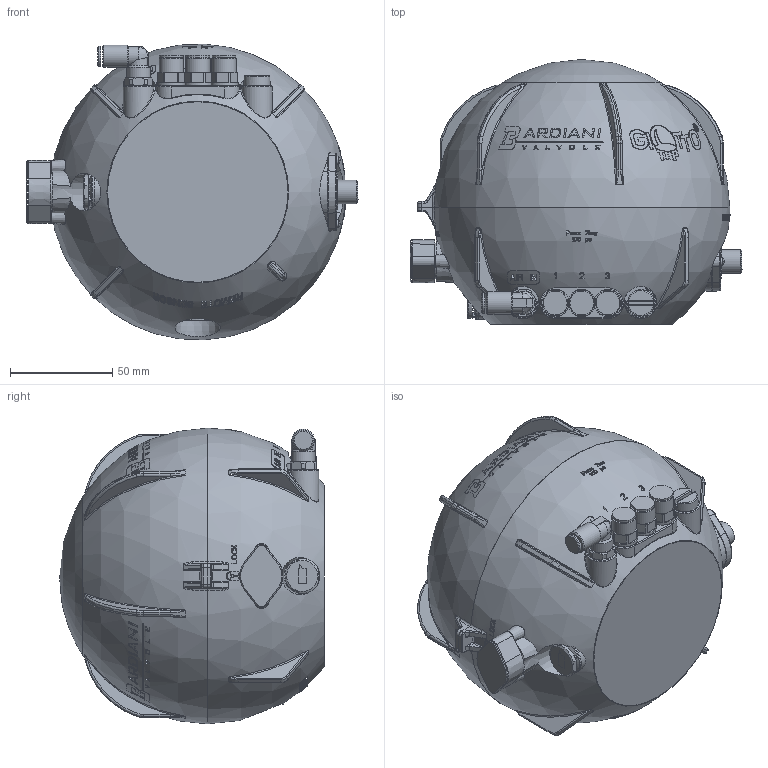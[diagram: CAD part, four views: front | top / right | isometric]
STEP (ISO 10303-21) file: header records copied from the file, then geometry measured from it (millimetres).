
FILE_DESCRIPTION(/* description */ (''),/* implementation_level */ '2;1');
FILE_NAME(/* name */ 'Z:\DOCUMENT\invigore\CATALOGO\Roll UP Giotto & JGiotto top 0115\3D Roll up fiera 2015\Giotto-Top-18_09_2014-Vuota.stp',/* time_stamp */ '2017-03-30T10:18:41+02:00',/* author */ ('marz-m'),/* organization */ (''),/* preprocessor_version */ 'ST-DEVELOPER v16.5',/* originating_system */ 'Autodesk Inventor 2017',/* authorisation */ '');
FILE_SCHEMA (('AUTOMOTIVE_DESIGN { 1 0 10303 214 3 1 1 }'));
Products named in the file (2): Giotto-Top-18_09_2014-Vuota; Giotto-Top-18_09_2014-Vuota_Substitute_1
Assembly tree (1 placements, depth 2):
  Giotto-Top-18_09_2014-Vuota
    Giotto-Top-18_09_2014-Vuota_Substitute_1
Bounding box: 162.66 x 129.8 x 144.85 mm (x, y, z)
Surface area: 113978 mm2 (no closed solid volume)
Topology: 0 solids, 97 shells, 565 faces, 4870 edges, 4359 vertices
Faces by surface type: plane 185, cylinder 110, sphere 82, bspline 78, torus 67, cone 43
Full cylindrical faces by diameter (mm): 10 x1, 11 x1, 11.5 x1, 11.6 x3, 11.75 x1, 12 x3, 13 x1, 13.4 x3, 17 x1
Entity records: 63860 total; most frequent: CARTESIAN_POINT 26725, DIRECTION 9243, ORIENTED_EDGE 5782, EDGE_CURVE 4814, AXIS2_PLACEMENT_3D 4375, VERTEX_POINT 4336, CIRCLE 3838, EDGE_LOOP 722
